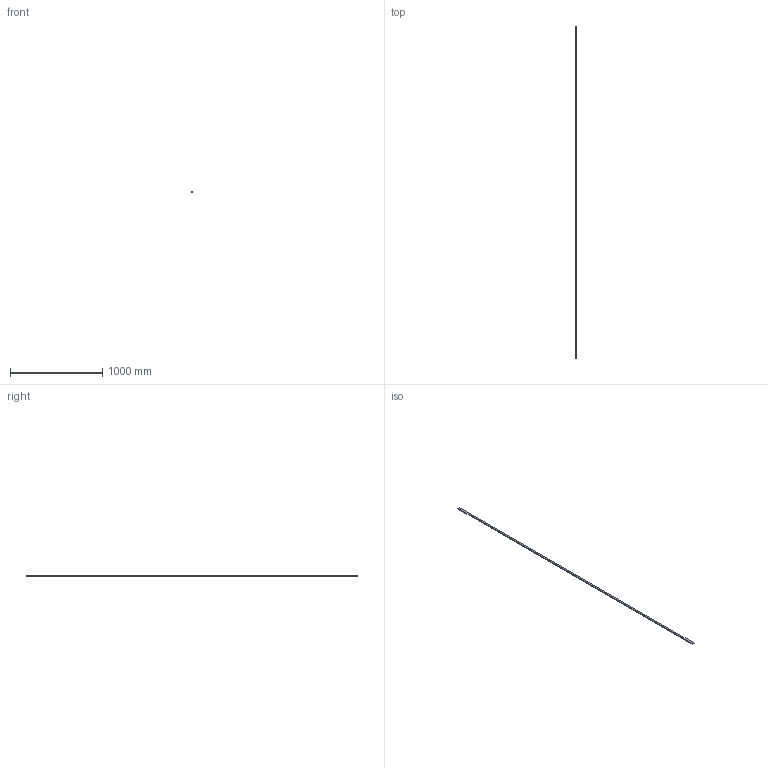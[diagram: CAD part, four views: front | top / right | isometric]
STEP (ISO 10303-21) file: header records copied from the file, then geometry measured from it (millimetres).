
FILE_DESCRIPTION (( 'STEP AP203' ), '1' );
FILE_NAME ('DN51140.STEP', '2025-10-31T07:34:44', ( '' ), ( '' ), 'SwSTEP 2.0', 'SolidWorks 2019', '' );
FILE_SCHEMA (( 'CONFIG_CONTROL_DESIGN' ));
Length unit declared in the file: millimetre
Products named in the file (1): DN51140
Bounding box: 20 x 3600 x 10 mm (x, y, z)
Volume: 720000 mm3; surface area: 216400 mm2
Topology: 1 solids, 1 shells, 6 faces, 12 edges, 8 vertices
Faces by surface type: plane 6
Entity records: 233 total; most frequent: CARTESIAN_POINT 27, DIRECTION 26, ORIENTED_EDGE 24, EDGE_CURVE 12, VECTOR 12, LINE 12, PERSON_AND_ORGANIZATION 8, VERTEX_POINT 8
